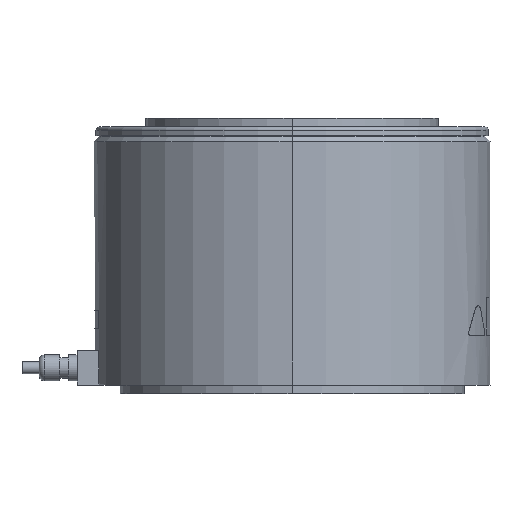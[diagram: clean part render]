
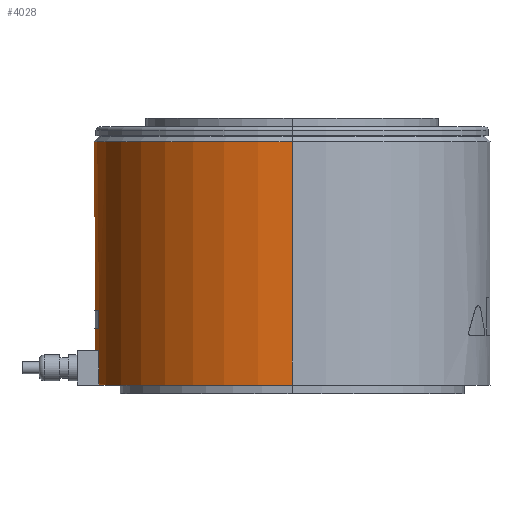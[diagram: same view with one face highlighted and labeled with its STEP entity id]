
A CAD part, left-side view. The second image highlights one B-rep face of the part: STEP entity #4028.
In plain terms, the highlighted cylindrical face has radius 115 mm (diameter 230 mm), a partial arc.
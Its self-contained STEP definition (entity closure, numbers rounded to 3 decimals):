
#1 = VERTEX_POINT ( 'NONE', #1144 ) ;
#2 = VERTEX_POINT ( 'NONE', #4260 ) ;
#3 = VERTEX_POINT ( 'NONE', #1145 ) ;
#4 = VERTEX_POINT ( 'NONE', #4261 ) ;
#5 = VERTEX_POINT ( 'NONE', #1148 ) ;
#6 = VERTEX_POINT ( 'NONE', #4262 ) ;
#7 = VERTEX_POINT ( 'NONE', #1146 ) ;
#8 = VERTEX_POINT ( 'NONE', #4263 ) ;
#9 = VERTEX_POINT ( 'NONE', #4264 ) ;
#10 = VERTEX_POINT ( 'NONE', #4265 ) ;
#285 = ORIENTED_EDGE ( 'NONE', *, *, #4643, .T. ) ;
#286 = ORIENTED_EDGE ( 'NONE', *, *, #4642, .T. ) ;
#287 = ORIENTED_EDGE ( 'NONE', *, *, #4638, .F. ) ;
#288 = ORIENTED_EDGE ( 'NONE', *, *, #4644, .T. ) ;
#289 = ORIENTED_EDGE ( 'NONE', *, *, #4634, .F. ) ;
#290 = ORIENTED_EDGE ( 'NONE', *, *, #4630, .F. ) ;
#291 = ORIENTED_EDGE ( 'NONE', *, *, #4646, .F. ) ;
#292 = ORIENTED_EDGE ( 'NONE', *, *, #4645, .F. ) ;
#293 = ORIENTED_EDGE ( 'NONE', *, *, #4614, .T. ) ;
#294 = ORIENTED_EDGE ( 'NONE', *, *, #4648, .T. ) ;
#295 = ORIENTED_EDGE ( 'NONE', *, *, #4650, .F. ) ;
#296 = ORIENTED_EDGE ( 'NONE', *, *, #4647, .F. ) ;
#467 = EDGE_LOOP ( 'NONE', ( #285, #286, #287, #288 ) ) ;
#721 = CIRCLE ( 'NONE', #6577, 115. ) ;
#745 = CIRCLE ( 'NONE', #6588, 115. ) ;
#748 = LINE ( 'NONE', #2243, #749 ) ;
#749 = VECTOR ( 'NONE', #2244, 1000. ) ;
#755 = LINE ( 'NONE', #2261, #761 ) ;
#757 = VECTOR ( 'NONE', #2270, 1000. ) ;
#758 = CIRCLE ( 'NONE', #6590, 115. ) ;
#761 = VECTOR ( 'NONE', #2264, 1000. ) ;
#762 = LINE ( 'NONE', #2269, #757 ) ;
#763 = LINE ( 'NONE', #2273, #764 ) ;
#764 = VECTOR ( 'NONE', #2274, 1000. ) ;
#765 = CIRCLE ( 'NONE', #6593, 115. ) ;
#766 = LINE ( 'NONE', #2266, #770 ) ;
#767 = CIRCLE ( 'NONE', #6594, 115. ) ;
#768 = LINE ( 'NONE', #2276, #769 ) ;
#769 = VECTOR ( 'NONE', #2277, 1000. ) ;
#770 = VECTOR ( 'NONE', #2279, 1000. ) ;
#772 = CIRCLE ( 'NONE', #6591, 115. ) ;
#1144 = CARTESIAN_POINT ( 'NONE',  ( 25., 112.25, 25. ) ) ;
#1145 = CARTESIAN_POINT ( 'NONE',  ( -25., 112.25, 6. ) ) ;
#1146 = CARTESIAN_POINT ( 'NONE',  ( 25., 112.25, 38. ) ) ;
#1148 = CARTESIAN_POINT ( 'NONE',  ( -25., 112.25, 38. ) ) ;
#1246 = EDGE_LOOP ( 'NONE', ( #289, #290, #291, #292 ) ) ;
#1249 = EDGE_LOOP ( 'NONE', ( #293, #294, #295, #296 ) ) ;
#2029 = VERTEX_POINT ( 'NONE', #5283 ) ;
#2030 = VERTEX_POINT ( 'NONE', #5284 ) ;
#2243 = CARTESIAN_POINT ( 'NONE',  ( -25., 112.25, 0. ) ) ;
#2244 = DIRECTION ( 'NONE',  ( 0., 0., 1. ) ) ;
#2253 = CARTESIAN_POINT ( 'NONE',  ( 0., 0., 6. ) ) ;
#2255 = DIRECTION ( 'NONE',  ( 0., 0., 1. ) ) ;
#2256 = DIRECTION ( 'NONE',  ( -1., 0., 0. ) ) ;
#2261 = CARTESIAN_POINT ( 'NONE',  ( -25., 112.25, 0. ) ) ;
#2263 = CARTESIAN_POINT ( 'NONE',  ( 0., 0., 48.5 ) ) ;
#2264 = DIRECTION ( 'NONE',  ( 0., 0., -1. ) ) ;
#2265 = CARTESIAN_POINT ( 'NONE',  ( 0., 0., 25. ) ) ;
#2266 = CARTESIAN_POINT ( 'NONE',  ( 115., 0., 0. ) ) ;
#2267 = DIRECTION ( 'NONE',  ( 0., 0., 1. ) ) ;
#2268 = DIRECTION ( 'NONE',  ( -1., 0., 0. ) ) ;
#2269 = CARTESIAN_POINT ( 'NONE',  ( 25., 112.25, 0. ) ) ;
#2270 = DIRECTION ( 'NONE',  ( 0., 0., 1. ) ) ;
#2271 = DIRECTION ( 'NONE',  ( 0., 0., -1. ) ) ;
#2272 = DIRECTION ( 'NONE',  ( 1., 0., 0. ) ) ;
#2273 = CARTESIAN_POINT ( 'NONE',  ( 25., 112.25, 0. ) ) ;
#2274 = DIRECTION ( 'NONE',  ( 0., 0., -1. ) ) ;
#2275 = CARTESIAN_POINT ( 'NONE',  ( 0., 0., 5. ) ) ;
#2276 = CARTESIAN_POINT ( 'NONE',  ( -115., 0., 0. ) ) ;
#2277 = DIRECTION ( 'NONE',  ( 0., 0., -1. ) ) ;
#2279 = DIRECTION ( 'NONE',  ( 0., 0., -1. ) ) ;
#2283 = DIRECTION ( 'NONE',  ( 0., 0., -1. ) ) ;
#2284 = DIRECTION ( 'NONE',  ( -1., 0., 0. ) ) ;
#3840 = CARTESIAN_POINT ( 'NONE',  ( 0., 0., 146.5 ) ) ;
#3855 = DIRECTION ( 'NONE',  ( 0., 0., -1. ) ) ;
#3856 = DIRECTION ( 'NONE',  ( -1., 0., 0. ) ) ;
#3885 = CARTESIAN_POINT ( 'NONE',  ( 0., 0., 38. ) ) ;
#4028 = ADVANCED_FACE ( 'NONE', ( #5781, #5789, #5791 ), #5785, .T. ) ;
#4260 = CARTESIAN_POINT ( 'NONE',  ( -25., 112.25, 25. ) ) ;
#4261 = CARTESIAN_POINT ( 'NONE',  ( 25., 112.25, 6. ) ) ;
#4262 = CARTESIAN_POINT ( 'NONE',  ( -25., 112.25, 48.5 ) ) ;
#4263 = CARTESIAN_POINT ( 'NONE',  ( 25., 112.25, 48.5 ) ) ;
#4264 = CARTESIAN_POINT ( 'NONE',  ( 115., 0., 5. ) ) ;
#4265 = CARTESIAN_POINT ( 'NONE',  ( -115., 0., 5. ) ) ;
#4614 = EDGE_CURVE ( 'NONE', #2030, #2029, #721, .T. ) ;
#4630 = EDGE_CURVE ( 'NONE', #7, #5, #745, .T. ) ;
#4634 = EDGE_CURVE ( 'NONE', #5, #6, #748, .T. ) ;
#4638 = EDGE_CURVE ( 'NONE', #4, #3, #758, .T. ) ;
#4642 = EDGE_CURVE ( 'NONE', #2, #3, #755, .T. ) ;
#4643 = EDGE_CURVE ( 'NONE', #1, #2, #765, .T. ) ;
#4644 = EDGE_CURVE ( 'NONE', #4, #1, #762, .T. ) ;
#4645 = EDGE_CURVE ( 'NONE', #6, #8, #767, .T. ) ;
#4646 = EDGE_CURVE ( 'NONE', #8, #7, #763, .T. ) ;
#4647 = EDGE_CURVE ( 'NONE', #2030, #10, #768, .T. ) ;
#4648 = EDGE_CURVE ( 'NONE', #2029, #9, #766, .T. ) ;
#4650 = EDGE_CURVE ( 'NONE', #10, #9, #772, .T. ) ;
#5283 = CARTESIAN_POINT ( 'NONE',  ( 115., 0., 146.5 ) ) ;
#5284 = CARTESIAN_POINT ( 'NONE',  ( -115., 0., 146.5 ) ) ;
#5517 = CARTESIAN_POINT ( 'NONE',  ( 0., 0., 0. ) ) ;
#5519 = DIRECTION ( 'NONE',  ( -1., 0., 0. ) ) ;
#5520 = DIRECTION ( 'NONE',  ( 0., 0., -1. ) ) ;
#5781 = FACE_BOUND ( 'NONE', #467, .T. ) ;
#5785 = CYLINDRICAL_SURFACE ( 'NONE', #5926, 115. ) ;
#5789 = FACE_BOUND ( 'NONE', #1246, .T. ) ;
#5791 = FACE_OUTER_BOUND ( 'NONE', #1249, .T. ) ;
#5926 = AXIS2_PLACEMENT_3D ( 'NONE', #5517, #5520, #5519 ) ;
#6530 = DIRECTION ( 'NONE',  ( 0., 0., 1. ) ) ;
#6532 = DIRECTION ( 'NONE',  ( -1., 0., 0. ) ) ;
#6577 = AXIS2_PLACEMENT_3D ( 'NONE', #3840, #3855, #3856 ) ;
#6588 = AXIS2_PLACEMENT_3D ( 'NONE', #3885, #6530, #6532 ) ;
#6590 = AXIS2_PLACEMENT_3D ( 'NONE', #2253, #2255, #2256 ) ;
#6591 = AXIS2_PLACEMENT_3D ( 'NONE', #2275, #2283, #2284 ) ;
#6593 = AXIS2_PLACEMENT_3D ( 'NONE', #2265, #2267, #2268 ) ;
#6594 = AXIS2_PLACEMENT_3D ( 'NONE', #2263, #2271, #2272 ) ;
